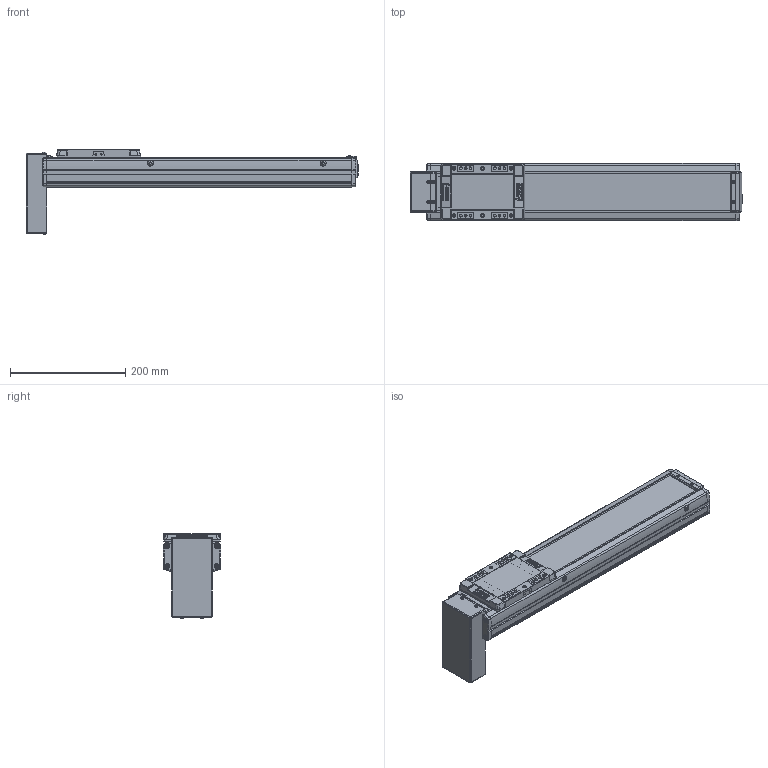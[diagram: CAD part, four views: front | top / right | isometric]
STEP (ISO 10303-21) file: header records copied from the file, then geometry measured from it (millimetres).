
FILE_DESCRIPTION(('STEP AP214'),'1');
FILE_NAME('Z:/Web/3D/SAN100/SAN100 양산용 (STEP)/SAN100ㅁㅁ-350PB.stp','2013-05-08T06:33:59',(' '),(' '),'Spatial InterOp 3D',' ',' ');
FILE_SCHEMA(('automotive_design'));
Length unit declared in the file: millimetre
Products named in the file (37): SUS COVER; SFX-SAN100; RRCV-SAN100; 스크루 : Round - M4.0 x 10.0; M3.0 x 6.0; 스크루 : Round - M3.0 x 6.0; FRBL-SAN100; SLBL-SAN100; SLCV-SAN100; 스크루 : Countersunk - M3.0 x 6.0; BASE; 스크루 : Round - M5.0 x 6.0; BTCV-SAN100; FRCV-SAN100
Bounding box: 576.5 x 100 x 148.36 mm (x, y, z)
Volume: 1884736.7 mm3; surface area: 439831.8 mm2
Topology: 37 solids, 38 shells, 2002 faces, 5194 edges, 3345 vertices
Faces by surface type: plane 1007, cylinder 719, cone 182, sphere 52, torus 30, bspline 12
Entity records: 78584 total; most frequent: CARTESIAN_POINT 11624, DIRECTION 11027, ORIENTED_EDGE 10232, EDGE_CURVE 5116, AXIS2_PLACEMENT_3D 3969, VERTEX_POINT 3345, LINE 3089, VECTOR 3089
